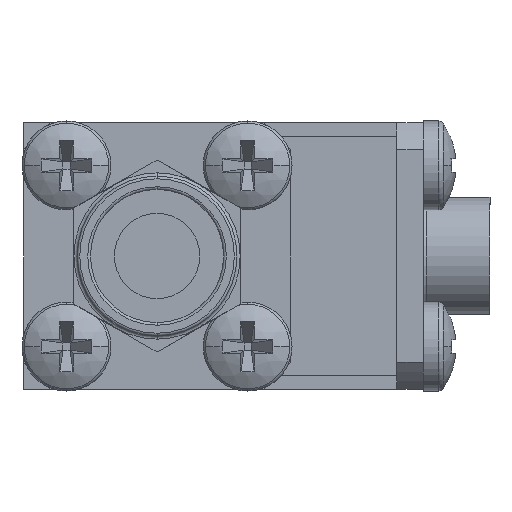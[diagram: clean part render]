
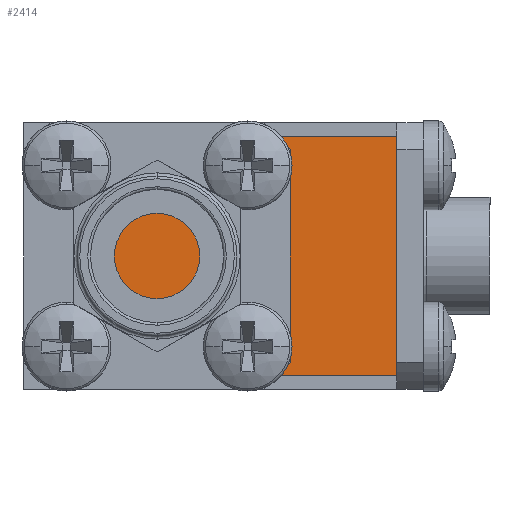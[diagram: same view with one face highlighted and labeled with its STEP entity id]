
A CAD part, left-side view. The second image highlights one B-rep face of the part: STEP entity #2414.
In plain terms, the highlighted planar face has unit normal (-1, 0, 0).
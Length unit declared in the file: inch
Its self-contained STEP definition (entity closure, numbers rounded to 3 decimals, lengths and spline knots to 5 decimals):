
#13 = CARTESIAN_POINT ( 'NONE',  ( 0.29, 0.06969, 0.225 ) ) ;
#247 = VERTEX_POINT ( 'NONE', #3066 ) ;
#276 = CARTESIAN_POINT ( 'NONE',  ( 0.29, 0.06969, 0.225 ) ) ;
#413 = EDGE_CURVE ( 'NONE', #913, #3462, #3209, .T. ) ;
#659 = DIRECTION ( 'NONE',  ( 0., 0., -1. ) ) ;
#694 = CARTESIAN_POINT ( 'NONE',  ( 0.29, 0.74469, -0.225 ) ) ;
#838 = VECTOR ( 'NONE', #4061, 39.37008 ) ;
#868 = ORIENTED_EDGE ( 'NONE', *, *, #2901, .F. ) ;
#913 = VERTEX_POINT ( 'NONE', #2346 ) ;
#967 = LINE ( 'NONE', #1858, #1556 ) ;
#1367 = FACE_OUTER_BOUND ( 'NONE', #4118, .T. ) ;
#1431 = VECTOR ( 'NONE', #3645, 39.37008 ) ;
#1556 = VECTOR ( 'NONE', #2146, 39.37008 ) ;
#1858 = CARTESIAN_POINT ( 'NONE',  ( 0.29, 0.74469, -0.225 ) ) ;
#1951 = EDGE_CURVE ( 'NONE', #3556, #247, #4152, .T. ) ;
#2002 = CARTESIAN_POINT ( 'NONE',  ( 0.29, 0.74469, 0.225 ) ) ;
#2072 = CARTESIAN_POINT ( 'NONE',  ( 0.29, 0.74469, 0.225 ) ) ;
#2146 = DIRECTION ( 'NONE',  ( 0., -1., 0. ) ) ;
#2346 = CARTESIAN_POINT ( 'NONE',  ( 0.29, 0.74469, 0.225 ) ) ;
#2414 = ADVANCED_FACE ( 'NONE', ( #1367 ), #2992, .F. ) ;
#2509 = ORIENTED_EDGE ( 'NONE', *, *, #413, .T. ) ;
#2855 = LINE ( 'NONE', #2072, #838 ) ;
#2901 = EDGE_CURVE ( 'NONE', #913, #3556, #2855, .T. ) ;
#2980 = AXIS2_PLACEMENT_3D ( 'NONE', #4009, #3930, #3273 ) ;
#2992 = PLANE ( 'NONE',  #2980 ) ;
#3007 = ORIENTED_EDGE ( 'NONE', *, *, #3297, .T. ) ;
#3066 = CARTESIAN_POINT ( 'NONE',  ( 0.29, 0.06969, -0.225 ) ) ;
#3209 = LINE ( 'NONE', #2002, #1431 ) ;
#3232 = ORIENTED_EDGE ( 'NONE', *, *, #1951, .F. ) ;
#3273 = DIRECTION ( 'NONE',  ( 0., 1., 0. ) ) ;
#3297 = EDGE_CURVE ( 'NONE', #3462, #247, #967, .T. ) ;
#3462 = VERTEX_POINT ( 'NONE', #694 ) ;
#3556 = VERTEX_POINT ( 'NONE', #13 ) ;
#3645 = DIRECTION ( 'NONE',  ( 0., 0., -1. ) ) ;
#3930 = DIRECTION ( 'NONE',  ( 1., 0., 0. ) ) ;
#4009 = CARTESIAN_POINT ( 'NONE',  ( 0.29, 0.74469, 0.225 ) ) ;
#4061 = DIRECTION ( 'NONE',  ( 0., -1., 0. ) ) ;
#4118 = EDGE_LOOP ( 'NONE', ( #3007, #3232, #868, #2509 ) ) ;
#4152 = LINE ( 'NONE', #276, #4297 ) ;
#4297 = VECTOR ( 'NONE', #659, 39.37008 ) ;
